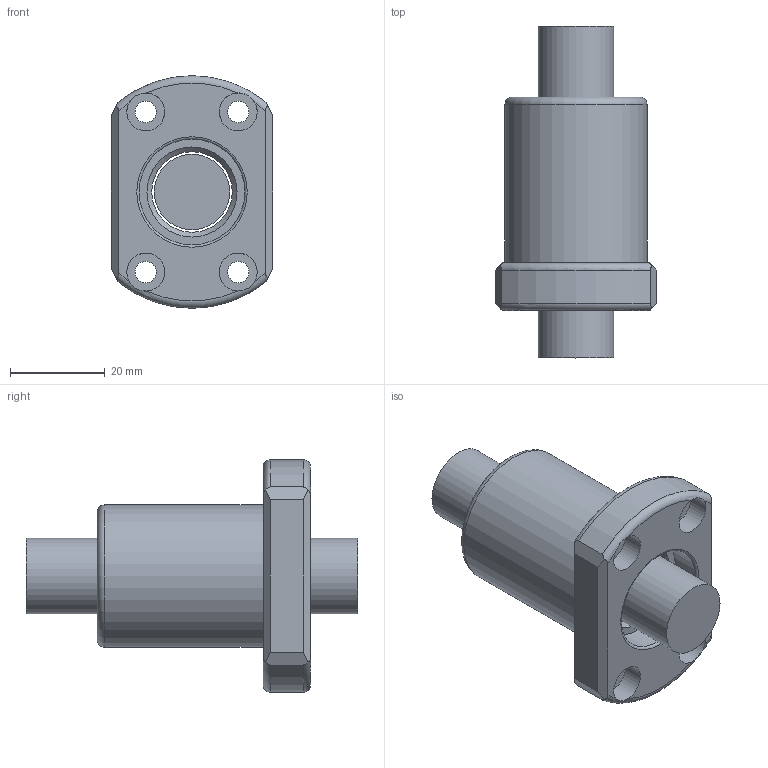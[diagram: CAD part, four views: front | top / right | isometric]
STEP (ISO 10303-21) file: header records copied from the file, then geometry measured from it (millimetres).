
FILE_DESCRIPTION(/* description */ (''),/* implementation_level */ '2;1');
FILE_NAME(/* name */ '1604T4D.prt.step',/* time_stamp */ '2008-12-05T09:32:54+08:00',/* author */ (''),/* organization */ (''),/* preprocessor_version */ 'ST-DEVELOPER v11',/* originating_system */ 'SIEMENS UGS NX 6.0',/* authorisation */ '');
FILE_SCHEMA (('AUTOMOTIVE_DESIGN { 1 0 10303 214 1 1 1 1 }'));
Length unit declared in the file: millimetre
Products named in the file (1): 1604T4D
Bounding box: 34 x 70 x 49 mm (x, y, z)
Volume: 39959.8 mm3; surface area: 14101.8 mm2
Topology: 2 solids, 2 shells, 49 faces, 122 edges, 80 vertices
Faces by surface type: plane 21, cylinder 15, torus 7, cone 6
Full cylindrical faces by diameter (mm): 4.5 x4, 8 x4, 15.95 x1, 17 x1, 22.3 x2, 30 x1
Entity records: 1554 total; most frequent: CARTESIAN_POINT 476, DIRECTION 218, ORIENTED_EDGE 182, AXIS2_PLACEMENT_3D 97, EDGE_CURVE 91, EDGE_LOOP 84, VERTEX_POINT 71, FACE_BOUND 66
